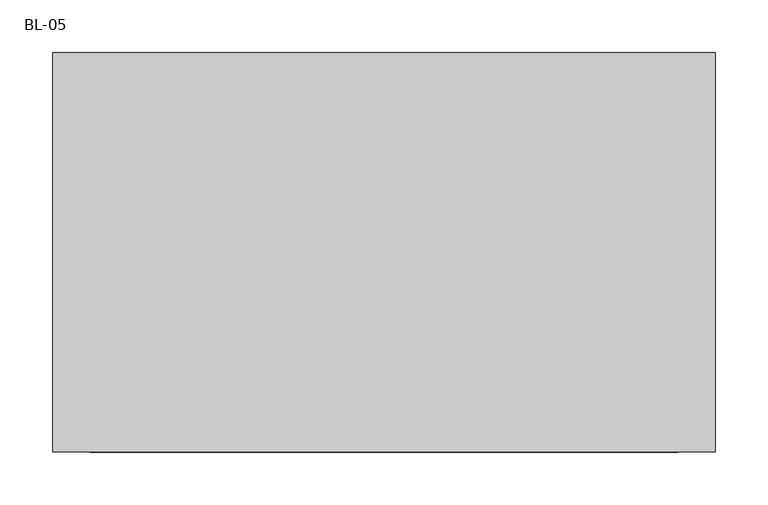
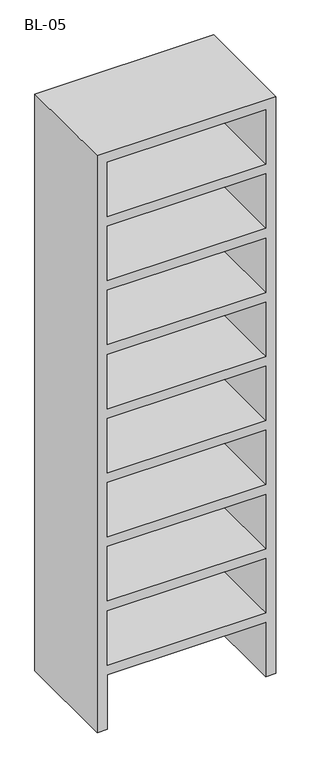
"""IFC4 building model written with IfcOpenShell, lengths in millimetres: furniture geometry, 8 ESTANTES-BLANCOS : BL-05."""

from ifc_helpers import new_model, si_unit, frame, origin, place, context, project, spatial, polyline, outline, extrude, source, transform, mapped, element, save


def bl_05_dfc2d4d5(model_context):
    return source(origin(), model_context, "Body", "SweptSolid", [
        extrude(outline(polyline([(0.0, -636.0697951), (0.0, -600.0697951), (202.8888889, -600.0697951), (202.8888889, -42.0697951), (0.0, -42.0697951), (0.0, -6.0697951), (2150.0, -6.0697951), (2150.0, -636.0697951), (0.0, -636.0697951)]), holes=[polyline([(1397.3333333, -42.0697951), (1194.4444444, -42.0697951), (1194.4444444, -600.0697951), (1397.3333333, -600.0697951), (1397.3333333, -42.0697951)]), polyline([(716.6666667, -600.0697951), (919.5555556, -600.0697951), (919.5555556, -42.0697951), (716.6666667, -42.0697951), (716.6666667, -600.0697951)]), polyline([(477.7777778, -600.0697951), (680.6666667, -600.0697951), (680.6666667, -42.0697951), (477.7777778, -42.0697951), (477.7777778, -600.0697951)]), polyline([(238.8888889, -600.0697951), (441.7777778, -600.0697951), (441.7777778, -42.0697951), (238.8888889, -42.0697951), (238.8888889, -600.0697951)]), polyline([(955.5555556, -42.0697951), (955.5555556, -600.0697951), (1158.4444444, -600.0697951), (1158.4444444, -42.0697951), (955.5555556, -42.0697951)]), polyline([(1911.1111111, -600.0697951), (2114.0, -600.0697951), (2114.0, -42.0697951), (1911.1111111, -42.0697951), (1911.1111111, -600.0697951)]), polyline([(1433.3333333, -42.0697951), (1433.3333333, -600.0697951), (1636.2222222, -600.0697951), (1636.2222222, -42.0697951), (1433.3333333, -42.0697951)]), polyline([(1875.1111111, -600.0697951), (1875.1111111, -42.0697951), (1672.2222222, -42.0697951), (1672.2222222, -600.0697951), (1875.1111111, -600.0697951)])]), frame((0.0, 100.0, 0.0), z_axis=(0.0, 1.0, 0.0), x_axis=(0.0, 0.0, 1.0)), (0.0, 0.0, 1.0), 380.0),
    ])


if __name__ == "__main__":
    model = new_model("IFC4")
    model_context = context("Model", 3, world=origin())
    ifc_project = project(units=[si_unit("LENGTHUNIT", "METRE", prefix="MILLI")], contexts=[model_context])
    site = spatial("IfcSite", under=ifc_project)
    building = spatial("IfcBuilding", under=site)
    placement = place(None, origin())
    bl_05_shape = bl_05_dfc2d4d5(model_context)
    element("IfcFurniture", 1, ObjectType="8 ESTANTES-BLANCOS : BL-05", at=placement, inside=building, context=model_context, shape_type="MappedRepresentation", body=[
        mapped(bl_05_shape, transform((0.0, 0.0, 0.0), x_axis=(1.0, 0.0, 0.0), y_axis=(0.0, 1.0, 0.0), z_axis=(0.0, 0.0, 1.0))),
    ])
    save(model, "model.ifc")
